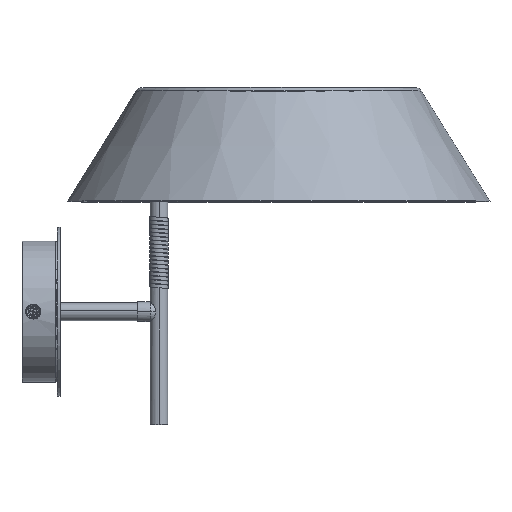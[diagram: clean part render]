
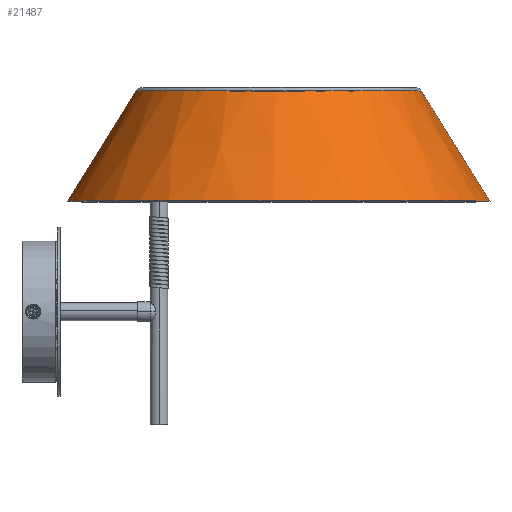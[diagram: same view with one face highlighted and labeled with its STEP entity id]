
A CAD part, top view. The second image highlights one B-rep face of the part: STEP entity #21487.
In plain terms, the highlighted conical face has half-angle 31.857 degrees and reference radius 149.98 mm.
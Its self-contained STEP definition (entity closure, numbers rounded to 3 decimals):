
#415 = CIRCLE ( 'NONE', #20625, 149.98 ) ;
#621 = AXIS2_PLACEMENT_3D ( 'NONE', #1636, #15556, #4338 ) ;
#1222 = EDGE_LOOP ( 'NONE', ( #8863, #27200, #5551, #5294 ) ) ;
#1636 = CARTESIAN_POINT ( 'NONE',  ( 0.002, 18.833, 231.804 ) ) ;
#2248 = EDGE_CURVE ( 'NONE', #29192, #7004, #3863, .T. ) ;
#2930 = CARTESIAN_POINT ( 'NONE',  ( 0.002, 96.955, 231.804 ) ) ;
#3863 = LINE ( 'NONE', #18662, #6366 ) ;
#4338 = DIRECTION ( 'NONE',  ( 1., 0., 0.021 ) ) ;
#4918 = EDGE_CURVE ( 'NONE', #13616, #28345, #26867, .T. ) ;
#5294 = ORIENTED_EDGE ( 'NONE', *, *, #4918, .F. ) ;
#5551 = ORIENTED_EDGE ( 'NONE', *, *, #24203, .F. ) ;
#6092 = DIRECTION ( 'NONE',  ( 1., 0., 0.021 ) ) ;
#6366 = VECTOR ( 'NONE', #14118, 1000. ) ;
#7004 = VERTEX_POINT ( 'NONE', #27412 ) ;
#7440 = CIRCLE ( 'NONE', #19141, 101.435 ) ;
#8863 = ORIENTED_EDGE ( 'NONE', *, *, #18271, .T. ) ;
#13531 = VECTOR ( 'NONE', #26768, 1000. ) ;
#13616 = VERTEX_POINT ( 'NONE', #19823 ) ;
#14005 = CARTESIAN_POINT ( 'NONE',  ( 149.948, 18.833, 234.99 ) ) ;
#14118 = DIRECTION ( 'NONE',  ( -0.528, -0.849, -0.011 ) ) ;
#15556 = DIRECTION ( 'NONE',  ( 0., -1., 0. ) ) ;
#17206 = CARTESIAN_POINT ( 'NONE',  ( 149.948, 18.833, 234.99 ) ) ;
#17588 = CARTESIAN_POINT ( 'NONE',  ( -101.41, 96.955, 229.65 ) ) ;
#17644 = FACE_OUTER_BOUND ( 'NONE', #1222, .T. ) ;
#17729 = CARTESIAN_POINT ( 'NONE',  ( 0.002, 18.833, 231.804 ) ) ;
#18271 = EDGE_CURVE ( 'NONE', #13616, #29192, #7440, .T. ) ;
#18662 = CARTESIAN_POINT ( 'NONE',  ( -149.944, 18.833, 228.619 ) ) ;
#19071 = DIRECTION ( 'NONE',  ( 1., 0., 0.021 ) ) ;
#19141 = AXIS2_PLACEMENT_3D ( 'NONE', #2930, #28420, #19071 ) ;
#19823 = CARTESIAN_POINT ( 'NONE',  ( 101.414, 96.955, 233.959 ) ) ;
#20625 = AXIS2_PLACEMENT_3D ( 'NONE', #17729, #27195, #6092 ) ;
#21487 = ADVANCED_FACE ( 'NONE', ( #17644 ), #29170, .T. ) ;
#24203 = EDGE_CURVE ( 'NONE', #28345, #7004, #415, .T. ) ;
#26768 = DIRECTION ( 'NONE',  ( 0.528, -0.849, 0.011 ) ) ;
#26867 = LINE ( 'NONE', #17206, #13531 ) ;
#27195 = DIRECTION ( 'NONE',  ( 0., -1., 0. ) ) ;
#27200 = ORIENTED_EDGE ( 'NONE', *, *, #2248, .T. ) ;
#27412 = CARTESIAN_POINT ( 'NONE',  ( -149.944, 18.833, 228.619 ) ) ;
#28345 = VERTEX_POINT ( 'NONE', #14005 ) ;
#28420 = DIRECTION ( 'NONE',  ( 0., -1., 0. ) ) ;
#29170 = CONICAL_SURFACE ( 'NONE', #621, 149.98, 0.556 ) ;
#29192 = VERTEX_POINT ( 'NONE', #17588 ) ;
